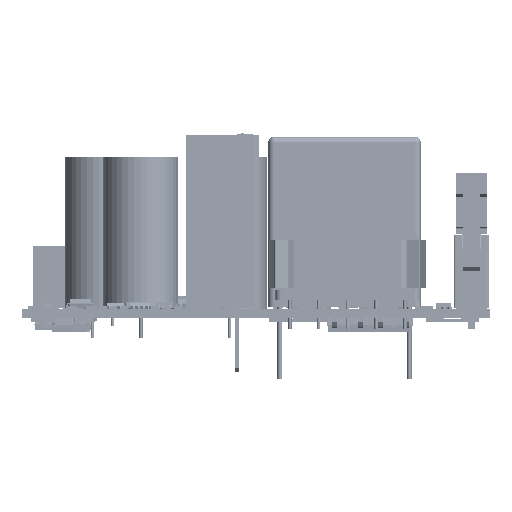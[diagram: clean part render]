
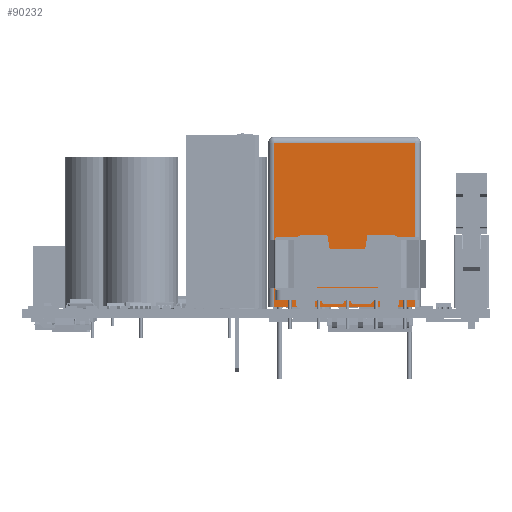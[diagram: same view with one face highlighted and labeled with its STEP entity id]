
A CAD part, front view. The second image highlights one B-rep face of the part: STEP entity #90232.
In plain terms, the highlighted planar face has unit normal (0, -1, 0) as drawn and (0, 0, 1) by its records, which use the part's own axes.
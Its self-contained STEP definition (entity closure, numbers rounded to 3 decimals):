
#90098 = EDGE_CURVE('',#90099,#90101,#90103,.T.);
#90099 = VERTEX_POINT('',#90100);
#90100 = CARTESIAN_POINT('',(-13.46,-19.083,14.5));
#90101 = VERTEX_POINT('',#90102);
#90102 = CARTESIAN_POINT('',(11.04,-19.083,14.5));
#90103 = LINE('',#90104,#90105);
#90104 = CARTESIAN_POINT('',(-14.46,-19.083,14.5));
#90105 = VECTOR('',#90106,1.);
#90106 = DIRECTION('',(1.,0.,0.));
#90232 = ADVANCED_FACE('',(#90233),#90258,.T.);
#90233 = FACE_BOUND('',#90234,.T.);
#90234 = EDGE_LOOP('',(#90235,#90245,#90251,#90252));
#90235 = ORIENTED_EDGE('',*,*,#90236,.T.);
#90236 = EDGE_CURVE('',#90237,#90239,#90241,.T.);
#90237 = VERTEX_POINT('',#90238);
#90238 = CARTESIAN_POINT('',(11.04,9.417,14.5));
#90239 = VERTEX_POINT('',#90240);
#90240 = CARTESIAN_POINT('',(-13.46,9.417,14.5));
#90241 = LINE('',#90242,#90243);
#90242 = CARTESIAN_POINT('',(-14.46,9.417,14.5));
#90243 = VECTOR('',#90244,1.);
#90244 = DIRECTION('',(-1.,0.,0.));
#90245 = ORIENTED_EDGE('',*,*,#90246,.T.);
#90246 = EDGE_CURVE('',#90239,#90099,#90247,.T.);
#90247 = LINE('',#90248,#90249);
#90248 = CARTESIAN_POINT('',(-13.46,-19.083,14.5));
#90249 = VECTOR('',#90250,1.);
#90250 = DIRECTION('',(0.,-1.,0.));
#90251 = ORIENTED_EDGE('',*,*,#90098,.T.);
#90252 = ORIENTED_EDGE('',*,*,#90253,.T.);
#90253 = EDGE_CURVE('',#90101,#90237,#90254,.T.);
#90254 = LINE('',#90255,#90256);
#90255 = CARTESIAN_POINT('',(11.04,10.417,14.5));
#90256 = VECTOR('',#90257,1.);
#90257 = DIRECTION('',(0.,1.,-0.));
#90258 = PLANE('',#90259);
#90259 = AXIS2_PLACEMENT_3D('',#90260,#90261,#90262);
#90260 = CARTESIAN_POINT('',(0.,0.,14.5));
#90261 = DIRECTION('',(-0.,0.,1.));
#90262 = DIRECTION('',(1.,0.,0.));
